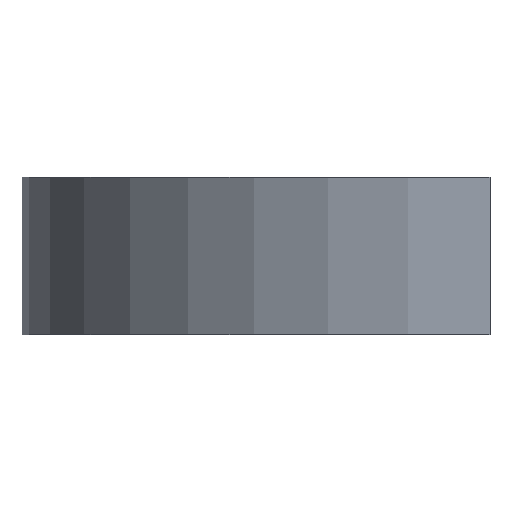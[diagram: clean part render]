
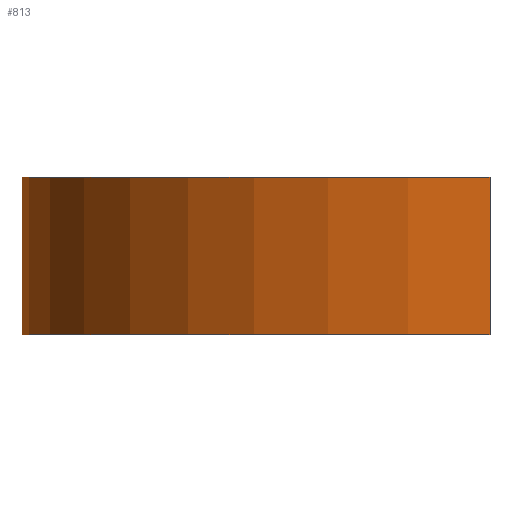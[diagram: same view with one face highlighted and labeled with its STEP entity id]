
A CAD part, front view. The second image highlights one B-rep face of the part: STEP entity #813.
In plain terms, the highlighted cylindrical face has radius 100 mm (diameter 200 mm), a partial arc.
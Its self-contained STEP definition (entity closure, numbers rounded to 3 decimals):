
#2 = CARTESIAN_POINT ( 'NONE',  ( -100., 0., 32. ) ) ;
#12 = CARTESIAN_POINT ( 'NONE',  ( -5., -99.875, 0. ) ) ;
#46 = EDGE_CURVE ( 'NONE', #622, #519, #176, .T. ) ;
#70 = AXIS2_PLACEMENT_3D ( 'NONE', #571, #174, #635 ) ;
#75 = CYLINDRICAL_SURFACE ( 'NONE', #642, 100. ) ;
#94 = CARTESIAN_POINT ( 'NONE',  ( 0., 0., 16. ) ) ;
#116 = CARTESIAN_POINT ( 'NONE',  ( -5., -99.875, 32. ) ) ;
#147 = AXIS2_PLACEMENT_3D ( 'NONE', #331, #260, #394 ) ;
#157 = DIRECTION ( 'NONE',  ( 0., 0., 1. ) ) ;
#174 = DIRECTION ( 'NONE',  ( 0., 0., 1. ) ) ;
#175 = EDGE_CURVE ( 'NONE', #519, #703, #612, .T. ) ;
#176 = CIRCLE ( 'NONE', #147, 100. ) ;
#208 = ORIENTED_EDGE ( 'NONE', *, *, #46, .F. ) ;
#223 = DIRECTION ( 'NONE',  ( 0., 0., 1. ) ) ;
#258 = VECTOR ( 'NONE', #478, 1000. ) ;
#260 = DIRECTION ( 'NONE',  ( 0., 0., 1. ) ) ;
#262 = EDGE_CURVE ( 'NONE', #640, #622, #436, .T. ) ;
#331 = CARTESIAN_POINT ( 'NONE',  ( 0., 0., 32. ) ) ;
#365 = ORIENTED_EDGE ( 'NONE', *, *, #262, .F. ) ;
#389 = VECTOR ( 'NONE', #223, 1000. ) ;
#394 = DIRECTION ( 'NONE',  ( 1., 0., 0. ) ) ;
#436 = LINE ( 'NONE', #676, #389 ) ;
#446 = ORIENTED_EDGE ( 'NONE', *, *, #175, .F. ) ;
#458 = EDGE_CURVE ( 'NONE', #640, #703, #490, .T. ) ;
#459 = CARTESIAN_POINT ( 'NONE',  ( -100., 0., 0. ) ) ;
#477 = EDGE_LOOP ( 'NONE', ( #208, #365, #689, #446 ) ) ;
#478 = DIRECTION ( 'NONE',  ( 0., 0., -1. ) ) ;
#483 = DIRECTION ( 'NONE',  ( 1., 0., 0. ) ) ;
#490 = CIRCLE ( 'NONE', #70, 100. ) ;
#519 = VERTEX_POINT ( 'NONE', #116 ) ;
#571 = CARTESIAN_POINT ( 'NONE',  ( 0., 0., 0. ) ) ;
#612 = LINE ( 'NONE', #792, #258 ) ;
#622 = VERTEX_POINT ( 'NONE', #2 ) ;
#635 = DIRECTION ( 'NONE',  ( 1., 0., 0. ) ) ;
#640 = VERTEX_POINT ( 'NONE', #459 ) ;
#642 = AXIS2_PLACEMENT_3D ( 'NONE', #94, #157, #483 ) ;
#676 = CARTESIAN_POINT ( 'NONE',  ( -100., 0., 16. ) ) ;
#689 = ORIENTED_EDGE ( 'NONE', *, *, #458, .T. ) ;
#703 = VERTEX_POINT ( 'NONE', #12 ) ;
#781 = FACE_OUTER_BOUND ( 'NONE', #477, .T. ) ;
#792 = CARTESIAN_POINT ( 'NONE',  ( -5., -99.875, 16. ) ) ;
#813 = ADVANCED_FACE ( 'NONE', ( #781 ), #75, .T. ) ;
